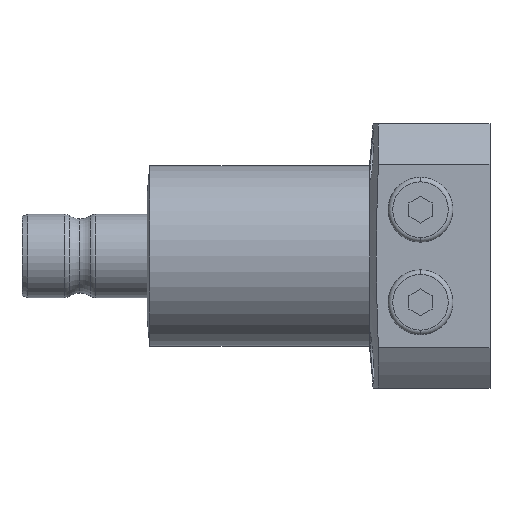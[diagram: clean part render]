
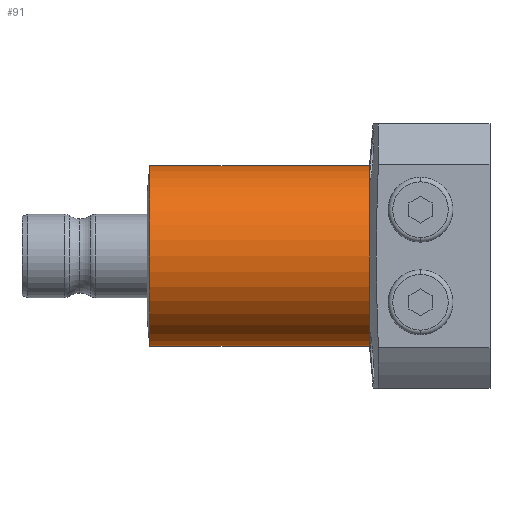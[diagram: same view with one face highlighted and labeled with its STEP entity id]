
A CAD part, left-side view. The second image highlights one B-rep face of the part: STEP entity #91.
In plain terms, the highlighted cylindrical face has radius 19.5 mm (diameter 39 mm), a partial arc.
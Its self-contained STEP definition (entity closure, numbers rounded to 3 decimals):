
#38 = DIRECTION ( 'NONE',  ( 0., 0., -1. ) ) ;
#69 = DIRECTION ( 'NONE',  ( 0., -1., 0. ) ) ;
#91 = ADVANCED_FACE ( 'NONE', ( #484 ), #2053, .T. ) ;
#102 = ORIENTED_EDGE ( 'NONE', *, *, #3743, .F. ) ;
#177 = CARTESIAN_POINT ( 'NONE',  ( 0., 73.431, 19.5 ) ) ;
#225 = CARTESIAN_POINT ( 'NONE',  ( 0., 26., 19.5 ) ) ;
#322 = EDGE_CURVE ( 'NONE', #3459, #3185, #3987, .T. ) ;
#405 = VERTEX_POINT ( 'NONE', #1579 ) ;
#484 = FACE_OUTER_BOUND ( 'NONE', #1865, .T. ) ;
#665 = ORIENTED_EDGE ( 'NONE', *, *, #322, .T. ) ;
#799 = EDGE_CURVE ( 'NONE', #3185, #405, #3031, .T. ) ;
#887 = CARTESIAN_POINT ( 'NONE',  ( 0., 73.431, -19.5 ) ) ;
#908 = AXIS2_PLACEMENT_3D ( 'NONE', #2779, #920, #3107 ) ;
#920 = DIRECTION ( 'NONE',  ( 0., -1., 0. ) ) ;
#1579 = CARTESIAN_POINT ( 'NONE',  ( 0., 26., -19.5 ) ) ;
#1603 = AXIS2_PLACEMENT_3D ( 'NONE', #3819, #1927, #38 ) ;
#1657 = ORIENTED_EDGE ( 'NONE', *, *, #3825, .F. ) ;
#1858 = VECTOR ( 'NONE', #69, 1000. ) ;
#1865 = EDGE_LOOP ( 'NONE', ( #1657, #665, #1932, #102 ) ) ;
#1927 = DIRECTION ( 'NONE',  ( 0., -1., 0. ) ) ;
#1932 = ORIENTED_EDGE ( 'NONE', *, *, #799, .T. ) ;
#1954 = CARTESIAN_POINT ( 'NONE',  ( 0., 0., 19.5 ) ) ;
#2018 = AXIS2_PLACEMENT_3D ( 'NONE', #2838, #3170, #3791 ) ;
#2053 = CYLINDRICAL_SURFACE ( 'NONE', #2018, 19.5 ) ;
#2082 = DIRECTION ( 'NONE',  ( 0., -1., 0. ) ) ;
#2284 = VECTOR ( 'NONE', #2082, 1000. ) ;
#2779 = CARTESIAN_POINT ( 'NONE',  ( 0., 73.431, 0. ) ) ;
#2838 = CARTESIAN_POINT ( 'NONE',  ( 0., 0., 0. ) ) ;
#2880 = CIRCLE ( 'NONE', #1603, 19.5 ) ;
#3031 = LINE ( 'NONE', #3351, #2284 ) ;
#3107 = DIRECTION ( 'NONE',  ( 0., 0., -1. ) ) ;
#3170 = DIRECTION ( 'NONE',  ( 0., -1., 0. ) ) ;
#3185 = VERTEX_POINT ( 'NONE', #887 ) ;
#3351 = CARTESIAN_POINT ( 'NONE',  ( 0., 0., -19.5 ) ) ;
#3459 = VERTEX_POINT ( 'NONE', #177 ) ;
#3528 = LINE ( 'NONE', #1954, #1858 ) ;
#3743 = EDGE_CURVE ( 'NONE', #4007, #405, #2880, .T. ) ;
#3791 = DIRECTION ( 'NONE',  ( 0., 0., -1. ) ) ;
#3819 = CARTESIAN_POINT ( 'NONE',  ( 0., 26., 0. ) ) ;
#3825 = EDGE_CURVE ( 'NONE', #3459, #4007, #3528, .T. ) ;
#3987 = CIRCLE ( 'NONE', #908, 19.5 ) ;
#4007 = VERTEX_POINT ( 'NONE', #225 ) ;
